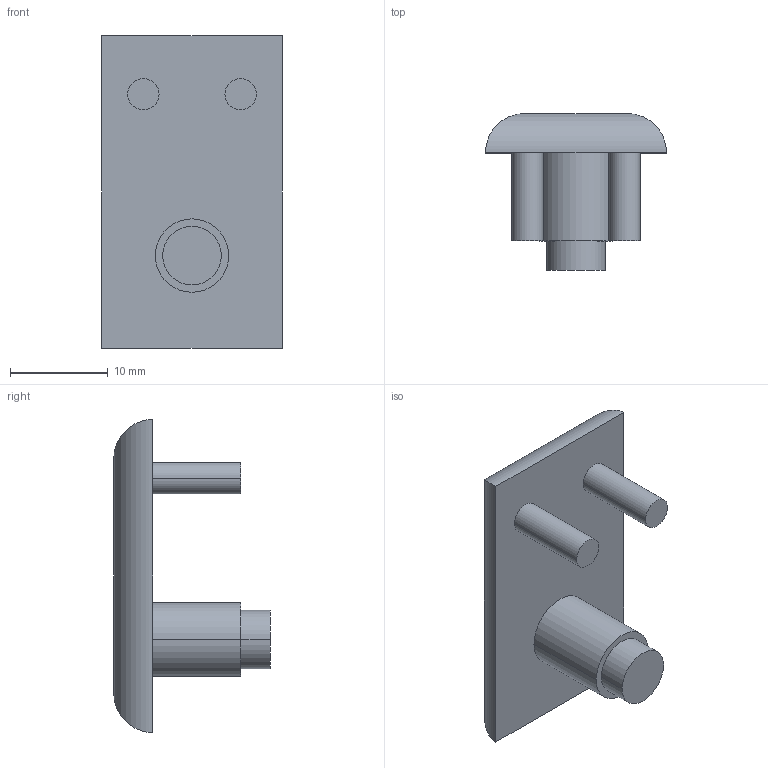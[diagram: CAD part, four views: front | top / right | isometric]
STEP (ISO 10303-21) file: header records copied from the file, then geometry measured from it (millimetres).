
FILE_DESCRIPTION((''),'2;1');
FILE_NAME('TAC185329','2002-12-27T',('Lipro doo'),('Lipro d.o.o.'),'PRO/ENGINEER BY PARAMETRIC TECHNOLOGY CORPORATION, 2001150','PRO/ENGINEER BY PARAMETRIC TECHNOLOGY CORPORATION, 2001150','');
FILE_SCHEMA(('CONFIG_CONTROL_DESIGN'));
Length unit declared in the file: millimetre
Products named in the file (1): TAC185329
Bounding box: 18.5 x 16 x 32 mm (x, y, z)
Volume: 2672.9 mm3; surface area: 1855.1 mm2
Topology: 1 solids, 1 shells, 18 faces, 36 edges, 24 vertices
Faces by surface type: cylinder 12, plane 6
Entity records: 566 total; most frequent: CARTESIAN_POINT 138, DIRECTION 84, ORIENTED_EDGE 72, EDGE_CURVE 36, AXIS2_PLACEMENT_3D 34, VERTEX_POINT 24, EDGE_LOOP 22, FACE_OUTER_BOUND 18
